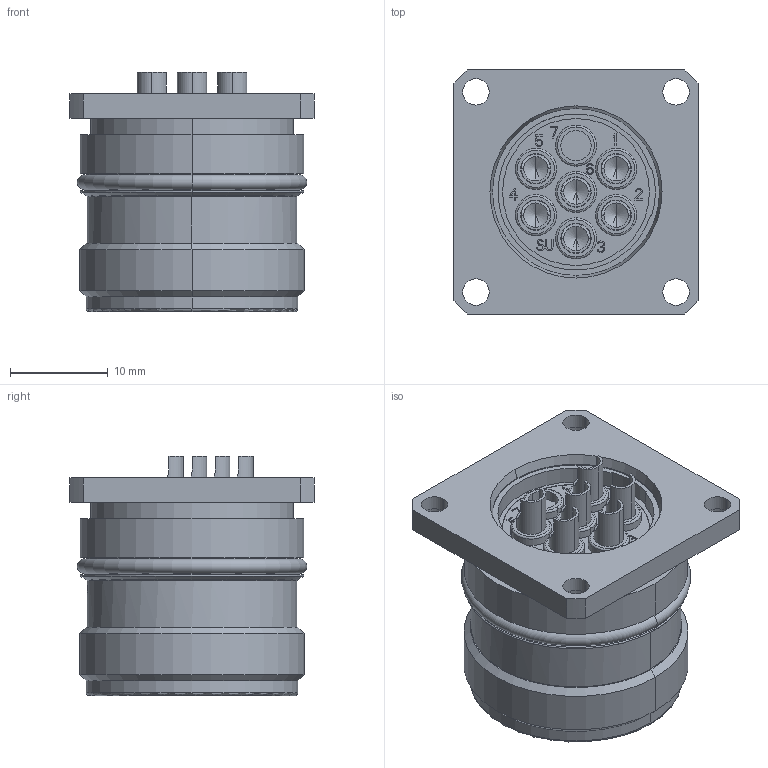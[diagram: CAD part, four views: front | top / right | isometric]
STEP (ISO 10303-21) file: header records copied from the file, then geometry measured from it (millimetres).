
FILE_DESCRIPTION((''),'2;1');
FILE_NAME('RC-06S1N125000','2011-08-03T',('JSCHEREMET'),(''),'PRO/ENGINEER BY PARAMETRIC TECHNOLOGY CORPORATION, 2010430','PRO/ENGINEER BY PARAMETRIC TECHNOLOGY CORPORATION, 2010430','');
FILE_SCHEMA(('AUTOMOTIVE_DESIGN { 1 0 10303 214 1 1 1 1 }'));
Length unit declared in the file: millimetre
Products named in the file (1): RC-06S1N125000
Bounding box: 25 x 25 x 24.5 mm (x, y, z)
Volume: 6035.7 mm3; surface area: 4807.7 mm2
Topology: 1 solids, 1 shells, 901 faces, 2446 edges, 1607 vertices
Faces by surface type: plane 709, cylinder 130, cone 37, torus 25
Entity records: 28980 total; most frequent: CARTESIAN_POINT 5891, ORIENTED_EDGE 4868, DIRECTION 4526, EDGE_CURVE 2434, VECTOR 2066, LINE 2066, VERTEX_POINT 1607, AXIS2_PLACEMENT_3D 1230
